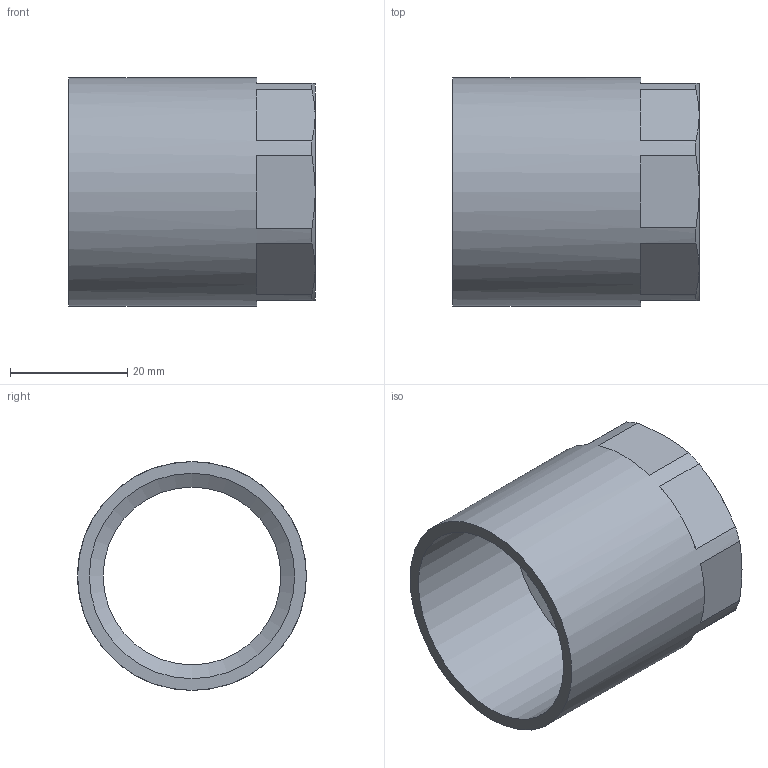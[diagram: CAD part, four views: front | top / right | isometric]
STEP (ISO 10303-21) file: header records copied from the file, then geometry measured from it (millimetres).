
FILE_DESCRIPTION(/* description */ (''),/* implementation_level */ '2;1');
FILE_NAME(/* name */ 'C:\Users\gomulka\Desktop\Nowy folder (2)\update\14270_35-1(3).stp',/* time_stamp */ '2017-10-19T12:18:05+02:00',/* author */ ('gomulka'),/* organization */ (''),/* preprocessor_version */ 'ST-DEVELOPER v15.6',/* originating_system */ 'Autodesk Inventor 2015',/* authorisation */ '');
FILE_SCHEMA (('AUTOMOTIVE_DESIGN { 1 0 10303 214 3 1 1 }'));
Length unit declared in the file: millimetre
Products named in the file (1): 14270_35-1(3)
Bounding box: 42 x 39 x 39 mm (x, y, z)
Volume: 13408.5 mm3; surface area: 10217.2 mm2
Topology: 1 solids, 1 shells, 31 faces, 76 edges, 47 vertices
Faces by surface type: plane 18, cone 10, cylinder 3
Full cylindrical faces by diameter (mm): 30.291 x1, 35 x1, 39 x1
Entity records: 890 total; most frequent: CARTESIAN_POINT 180, DIRECTION 148, ORIENTED_EDGE 140, EDGE_CURVE 70, AXIS2_PLACEMENT_3D 62, VERTEX_POINT 46, EDGE_LOOP 38, FACE_OUTER_BOUND 31
